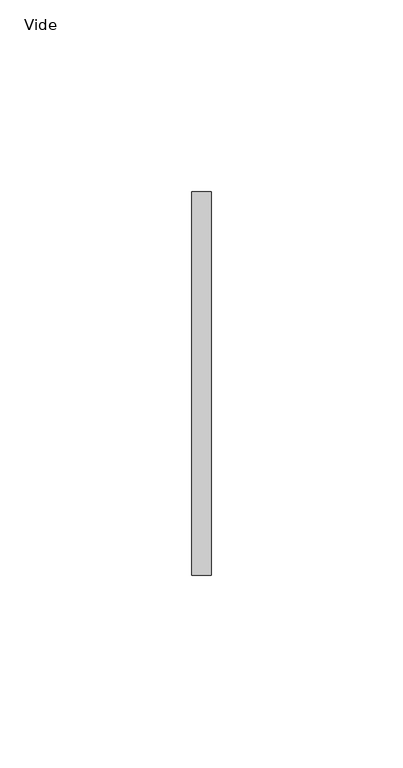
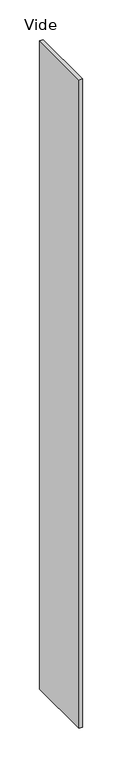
"""IFC4 building model written with IfcOpenShell, lengths in millimetres: plate geometry, Panneau système vide : Vide."""

from ifc_helpers import new_model, si_unit, origin, origin_with_axes, place, context, project, spatial, polyline, outline, extrude, source, transform, mapped, element, save


def vide_d45d4c5a(model_context):
    return source(origin(), model_context, "Body", "SweptSolid", [
        extrude(outline(polyline([(2.4999998, 50.0), (-2.4999998, 50.0), (-2.4999998, 150.0), (2.4999998, 150.0), (2.4999998, 50.0)])), origin_with_axes(), (0.0, 0.0, 1.0), 1000.0),
    ])


if __name__ == "__main__":
    model = new_model("IFC4")
    model_context = context("Model", 3, world=origin())
    ifc_project = project(units=[si_unit("LENGTHUNIT", "METRE", prefix="MILLI")], contexts=[model_context])
    site = spatial("IfcSite", under=ifc_project)
    building = spatial("IfcBuilding", under=site)
    placement = place(None, origin())
    vide_shape = vide_d45d4c5a(model_context)
    element("IfcPlate", 1, ObjectType="Panneau système vide : Vide", at=placement, inside=building, context=model_context, shape_type="MappedRepresentation", body=[
        mapped(vide_shape, transform((0.0, 0.0, 0.0), x_axis=(1.0, 0.0, 0.0), y_axis=(0.0, 1.0, 0.0), z_axis=(0.0, 0.0, 1.0))),
    ])
    save(model, "model.ifc")
